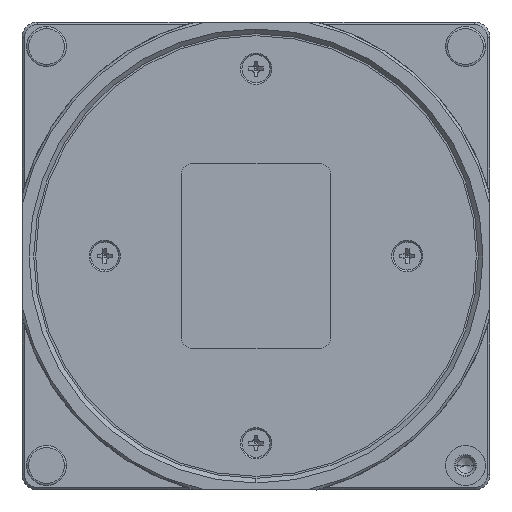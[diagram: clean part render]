
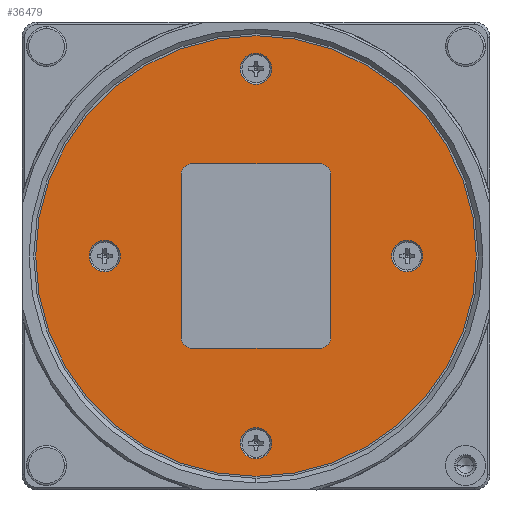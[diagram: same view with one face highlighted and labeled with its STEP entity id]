
A CAD part, left-side view. The second image highlights one B-rep face of the part: STEP entity #36479.
In plain terms, the highlighted planar face has unit normal (-1, 0, 0).
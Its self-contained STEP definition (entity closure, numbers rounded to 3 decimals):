
#74=CARTESIAN_POINT('',(1.14,0.,0.));
#75=DIRECTION('',(1.,0.,0.));
#76=DIRECTION('',(0.,-1.,0.));
#77=AXIS2_PLACEMENT_3D('',#74,#75,#76);
#79=CARTESIAN_POINT('',(1.14,0.,0.));
#80=DIRECTION('',(1.,0.,0.));
#81=DIRECTION('',(0.,1.,0.));
#82=AXIS2_PLACEMENT_3D('',#79,#80,#81);
#84=CARTESIAN_POINT('',(1.14,8.1,-10.35));
#85=DIRECTION('',(-1.,0.,0.));
#86=DIRECTION('',(0.,1.,0.));
#87=AXIS2_PLACEMENT_3D('',#84,#85,#86);
#89=CARTESIAN_POINT('',(1.14,-8.1,-10.35));
#90=DIRECTION('',(-1.,0.,0.));
#91=DIRECTION('',(0.,0.,-1.));
#92=AXIS2_PLACEMENT_3D('',#89,#90,#91);
#94=CARTESIAN_POINT('',(1.14,-8.1,10.35));
#95=DIRECTION('',(-1.,0.,0.));
#96=DIRECTION('',(0.,-1.,0.));
#97=AXIS2_PLACEMENT_3D('',#94,#95,#96);
#99=CARTESIAN_POINT('',(1.14,8.1,10.35));
#100=DIRECTION('',(-1.,0.,0.));
#101=DIRECTION('',(0.,0.,1.));
#102=AXIS2_PLACEMENT_3D('',#99,#100,#101);
#104=CARTESIAN_POINT('',(1.14,0.,-24.));
#105=DIRECTION('',(-1.,0.,0.));
#106=DIRECTION('',(0.,-1.,0.));
#107=AXIS2_PLACEMENT_3D('',#104,#105,#106);
#109=CARTESIAN_POINT('',(1.14,0.,-24.));
#110=DIRECTION('',(-1.,0.,0.));
#111=DIRECTION('',(0.,1.,0.));
#112=AXIS2_PLACEMENT_3D('',#109,#110,#111);
#114=CARTESIAN_POINT('',(1.14,19.4,0.));
#115=DIRECTION('',(-1.,0.,0.));
#116=DIRECTION('',(0.,-1.,0.));
#117=AXIS2_PLACEMENT_3D('',#114,#115,#116);
#119=CARTESIAN_POINT('',(1.14,19.4,0.));
#120=DIRECTION('',(-1.,0.,0.));
#121=DIRECTION('',(0.,1.,0.));
#122=AXIS2_PLACEMENT_3D('',#119,#120,#121);
#124=CARTESIAN_POINT('',(1.14,-19.4,0.));
#125=DIRECTION('',(-1.,0.,0.));
#126=DIRECTION('',(0.,-1.,0.));
#127=AXIS2_PLACEMENT_3D('',#124,#125,#126);
#129=CARTESIAN_POINT('',(1.14,-19.4,0.));
#130=DIRECTION('',(-1.,0.,0.));
#131=DIRECTION('',(0.,1.,0.));
#132=AXIS2_PLACEMENT_3D('',#129,#130,#131);
#134=CARTESIAN_POINT('',(1.14,0.,24.));
#135=DIRECTION('',(-1.,0.,0.));
#136=DIRECTION('',(0.,-1.,0.));
#137=AXIS2_PLACEMENT_3D('',#134,#135,#136);
#139=CARTESIAN_POINT('',(1.14,0.,24.));
#140=DIRECTION('',(-1.,0.,0.));
#141=DIRECTION('',(0.,1.,0.));
#142=AXIS2_PLACEMENT_3D('',#139,#140,#141);
#29731=DIRECTION('',(0.,0.,1.));
#29732=VECTOR('',#29731,20.7);
#29733=CARTESIAN_POINT('',(1.14,9.6,-10.35));
#29734=LINE('',#29733,#29732);
#29779=DIRECTION('',(0.,-1.,0.));
#29780=VECTOR('',#29779,16.2);
#29781=CARTESIAN_POINT('',(1.14,8.1,11.85));
#29782=LINE('',#29781,#29780);
#29791=DIRECTION('',(0.,0.,-1.));
#29792=VECTOR('',#29791,20.7);
#29793=CARTESIAN_POINT('',(1.14,-9.6,10.35));
#29794=LINE('',#29793,#29792);
#29803=DIRECTION('',(0.,1.,0.));
#29804=VECTOR('',#29803,16.2);
#29805=CARTESIAN_POINT('',(1.14,-8.1,-11.85));
#29806=LINE('',#29805,#29804);
#31442=CARTESIAN_POINT('',(1.14,-28.25,0.));
#31443=CARTESIAN_POINT('',(1.14,28.25,0.));
#31444=VERTEX_POINT('',#31442);
#31445=VERTEX_POINT('',#31443);
#31446=CARTESIAN_POINT('',(1.14,9.6,-10.35));
#31447=CARTESIAN_POINT('',(1.14,9.6,10.35));
#31448=VERTEX_POINT('',#31446);
#31449=VERTEX_POINT('',#31447);
#31450=CARTESIAN_POINT('',(1.14,8.1,-11.85));
#31451=VERTEX_POINT('',#31450);
#31452=CARTESIAN_POINT('',(1.14,-8.1,-11.85));
#31453=VERTEX_POINT('',#31452);
#31454=CARTESIAN_POINT('',(1.14,-9.6,-10.35));
#31455=VERTEX_POINT('',#31454);
#31456=CARTESIAN_POINT('',(1.14,-9.6,10.35));
#31457=VERTEX_POINT('',#31456);
#31458=CARTESIAN_POINT('',(1.14,-8.1,11.85));
#31459=VERTEX_POINT('',#31458);
#31460=CARTESIAN_POINT('',(1.14,8.1,11.85));
#31461=VERTEX_POINT('',#31460);
#31462=CARTESIAN_POINT('',(1.14,-2.,-24.));
#31463=CARTESIAN_POINT('',(1.14,2.,-24.));
#31464=VERTEX_POINT('',#31462);
#31465=VERTEX_POINT('',#31463);
#31466=CARTESIAN_POINT('',(1.14,17.4,0.));
#31467=CARTESIAN_POINT('',(1.14,21.4,0.));
#31468=VERTEX_POINT('',#31466);
#31469=VERTEX_POINT('',#31467);
#31470=CARTESIAN_POINT('',(1.14,-21.4,0.));
#31471=CARTESIAN_POINT('',(1.14,-17.4,0.));
#31472=VERTEX_POINT('',#31470);
#31473=VERTEX_POINT('',#31471);
#31474=CARTESIAN_POINT('',(1.14,-2.,24.));
#31475=CARTESIAN_POINT('',(1.14,2.,24.));
#31476=VERTEX_POINT('',#31474);
#31477=VERTEX_POINT('',#31475);
#36428=CARTESIAN_POINT('',(1.14,0.,0.));
#36429=DIRECTION('',(1.,0.,0.));
#36430=DIRECTION('',(0.,1.,0.));
#36431=AXIS2_PLACEMENT_3D('',#36428,#36429,#36430);
#36432=PLANE('',#36431);
#36434=ORIENTED_EDGE('',*,*,#36433,.T.);
#36436=ORIENTED_EDGE('',*,*,#36435,.T.);
#36437=EDGE_LOOP('',(#36434,#36436));
#36438=FACE_OUTER_BOUND('',#36437,.F.);
#36440=ORIENTED_EDGE('',*,*,#36439,.F.);
#36442=ORIENTED_EDGE('',*,*,#36441,.T.);
#36444=ORIENTED_EDGE('',*,*,#36443,.F.);
#36446=ORIENTED_EDGE('',*,*,#36445,.T.);
#36448=ORIENTED_EDGE('',*,*,#36447,.F.);
#36450=ORIENTED_EDGE('',*,*,#36449,.T.);
#36452=ORIENTED_EDGE('',*,*,#36451,.F.);
#36454=ORIENTED_EDGE('',*,*,#36453,.T.);
#36455=EDGE_LOOP('',(#36440,#36442,#36444,#36446,#36448,#36450,#36452,#36454));
#36456=FACE_BOUND('',#36455,.F.);
#36458=ORIENTED_EDGE('',*,*,#36457,.T.);
#36460=ORIENTED_EDGE('',*,*,#36459,.T.);
#36461=EDGE_LOOP('',(#36458,#36460));
#36462=FACE_BOUND('',#36461,.F.);
#36464=ORIENTED_EDGE('',*,*,#36463,.T.);
#36466=ORIENTED_EDGE('',*,*,#36465,.T.);
#36467=EDGE_LOOP('',(#36464,#36466));
#36468=FACE_BOUND('',#36467,.F.);
#36470=ORIENTED_EDGE('',*,*,#36469,.T.);
#36472=ORIENTED_EDGE('',*,*,#36471,.T.);
#36473=EDGE_LOOP('',(#36470,#36472));
#36474=FACE_BOUND('',#36473,.F.);
#36475=ORIENTED_EDGE('',*,*,#36410,.T.);
#36476=ORIENTED_EDGE('',*,*,#36395,.T.);
#36477=EDGE_LOOP('',(#36475,#36476));
#36478=FACE_BOUND('',#36477,.F.);
#36479=ADVANCED_FACE('',(#36438,#36456,#36462,#36468,#36474,#36478),#36432,.F.);
#78=CIRCLE('',#77,28.25);
#83=CIRCLE('',#82,28.25);
#88=CIRCLE('',#87,1.5);
#93=CIRCLE('',#92,1.5);
#98=CIRCLE('',#97,1.5);
#103=CIRCLE('',#102,1.5);
#108=CIRCLE('',#107,2.);
#113=CIRCLE('',#112,2.);
#118=CIRCLE('',#117,2.);
#123=CIRCLE('',#122,2.);
#128=CIRCLE('',#127,2.);
#133=CIRCLE('',#132,2.);
#138=CIRCLE('',#137,2.);
#143=CIRCLE('',#142,2.);
#36395=EDGE_CURVE('',#31477,#31476,#143,.T.);
#36410=EDGE_CURVE('',#31476,#31477,#138,.T.);
#36433=EDGE_CURVE('',#31444,#31445,#78,.T.);
#36435=EDGE_CURVE('',#31445,#31444,#83,.T.);
#36439=EDGE_CURVE('',#31448,#31449,#29734,.T.);
#36441=EDGE_CURVE('',#31448,#31451,#88,.T.);
#36443=EDGE_CURVE('',#31453,#31451,#29806,.T.);
#36445=EDGE_CURVE('',#31453,#31455,#93,.T.);
#36447=EDGE_CURVE('',#31457,#31455,#29794,.T.);
#36449=EDGE_CURVE('',#31457,#31459,#98,.T.);
#36451=EDGE_CURVE('',#31461,#31459,#29782,.T.);
#36453=EDGE_CURVE('',#31461,#31449,#103,.T.);
#36457=EDGE_CURVE('',#31464,#31465,#108,.T.);
#36459=EDGE_CURVE('',#31465,#31464,#113,.T.);
#36463=EDGE_CURVE('',#31468,#31469,#118,.T.);
#36465=EDGE_CURVE('',#31469,#31468,#123,.T.);
#36469=EDGE_CURVE('',#31472,#31473,#128,.T.);
#36471=EDGE_CURVE('',#31473,#31472,#133,.T.);
